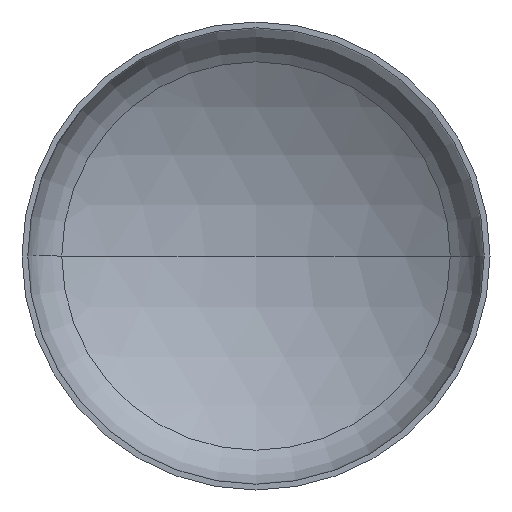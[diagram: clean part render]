
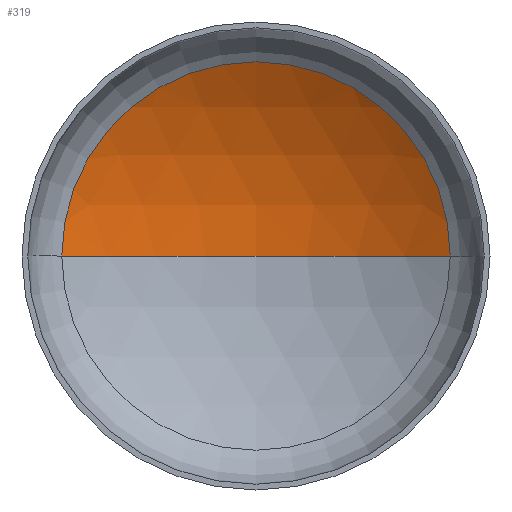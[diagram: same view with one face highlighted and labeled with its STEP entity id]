
A CAD part, front view. The second image highlights one B-rep face of the part: STEP entity #319.
In plain terms, the highlighted spherical face has radius 254 mm.
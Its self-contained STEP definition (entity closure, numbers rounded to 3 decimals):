
#7 = AXIS2_PLACEMENT_3D ( 'NONE', #275, #357, #216 ) ;
#24 = VERTEX_POINT ( 'NONE', #151 ) ;
#27 = DIRECTION ( 'NONE',  ( 0., 0., -1. ) ) ;
#33 = CARTESIAN_POINT ( 'NONE',  ( 0., 62.426, 0. ) ) ;
#34 = AXIS2_PLACEMENT_3D ( 'NONE', #377, #237, #255 ) ;
#35 = AXIS2_PLACEMENT_3D ( 'NONE', #260, #27, #288 ) ;
#36 = AXIS2_PLACEMENT_3D ( 'NONE', #33, #290, #119 ) ;
#41 = ORIENTED_EDGE ( 'NONE', *, *, #103, .F. ) ;
#44 = ORIENTED_EDGE ( 'NONE', *, *, #91, .T. ) ;
#74 = CIRCLE ( 'NONE', #35, 254. ) ;
#82 = VERTEX_POINT ( 'NONE', #231 ) ;
#88 = EDGE_LOOP ( 'NONE', ( #41, #137, #44 ) ) ;
#91 = EDGE_CURVE ( 'NONE', #114, #82, #187, .T. ) ;
#92 = EDGE_CURVE ( 'NONE', #24, #114, #74, .T. ) ;
#103 = EDGE_CURVE ( 'NONE', #24, #82, #246, .T. ) ;
#114 = VERTEX_POINT ( 'NONE', #330 ) ;
#119 = DIRECTION ( 'NONE',  ( 1., 0., 0. ) ) ;
#137 = ORIENTED_EDGE ( 'NONE', *, *, #92, .T. ) ;
#151 = CARTESIAN_POINT ( 'NONE',  ( 0., 100.902, 0. ) ) ;
#187 = CIRCLE ( 'NONE', #36, 134.408 ) ;
#216 = DIRECTION ( 'NONE',  ( -1., 0., 0. ) ) ;
#229 = SPHERICAL_SURFACE ( 'NONE', #7, 254. ) ;
#231 = CARTESIAN_POINT ( 'NONE',  ( -134.408, 62.426, 0. ) ) ;
#237 = DIRECTION ( 'NONE',  ( 0., 0., 1. ) ) ;
#246 = CIRCLE ( 'NONE', #34, 254. ) ;
#255 = DIRECTION ( 'NONE',  ( 1., 0., 0. ) ) ;
#260 = CARTESIAN_POINT ( 'NONE',  ( 0., -153.098, 0. ) ) ;
#275 = CARTESIAN_POINT ( 'NONE',  ( 0., -153.098, 0. ) ) ;
#286 = FACE_OUTER_BOUND ( 'NONE', #88, .T. ) ;
#288 = DIRECTION ( 'NONE',  ( -1., 0., 0. ) ) ;
#290 = DIRECTION ( 'NONE',  ( 0., -1., 0. ) ) ;
#319 = ADVANCED_FACE ( 'NONE', ( #286 ), #229, .F. ) ;
#330 = CARTESIAN_POINT ( 'NONE',  ( 134.408, 62.426, 0. ) ) ;
#357 = DIRECTION ( 'NONE',  ( 0., 0., -1. ) ) ;
#377 = CARTESIAN_POINT ( 'NONE',  ( 0., -153.098, 0. ) ) ;
